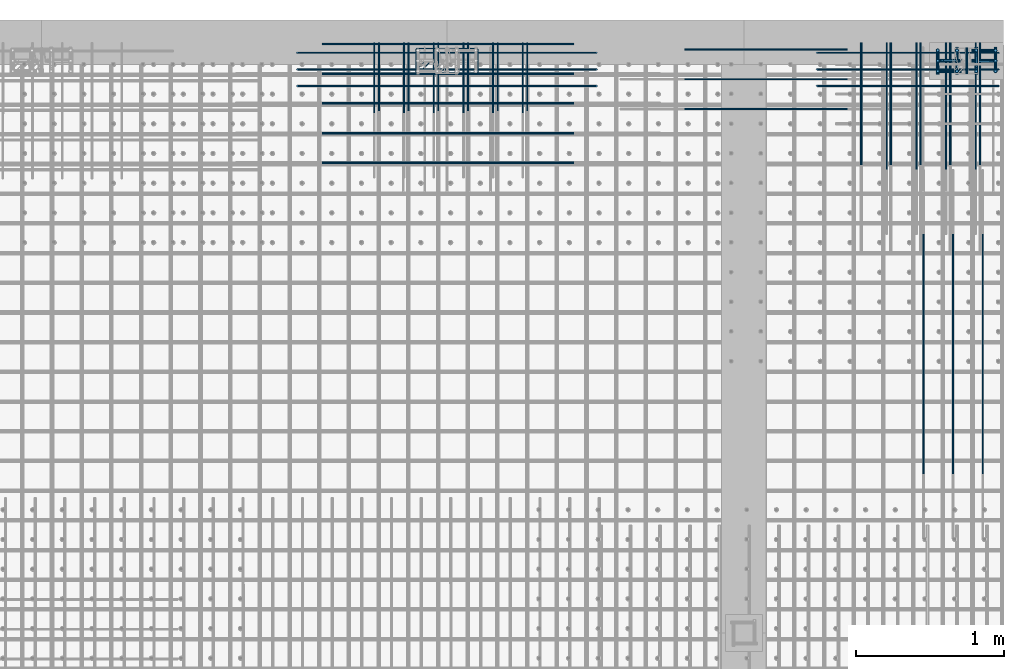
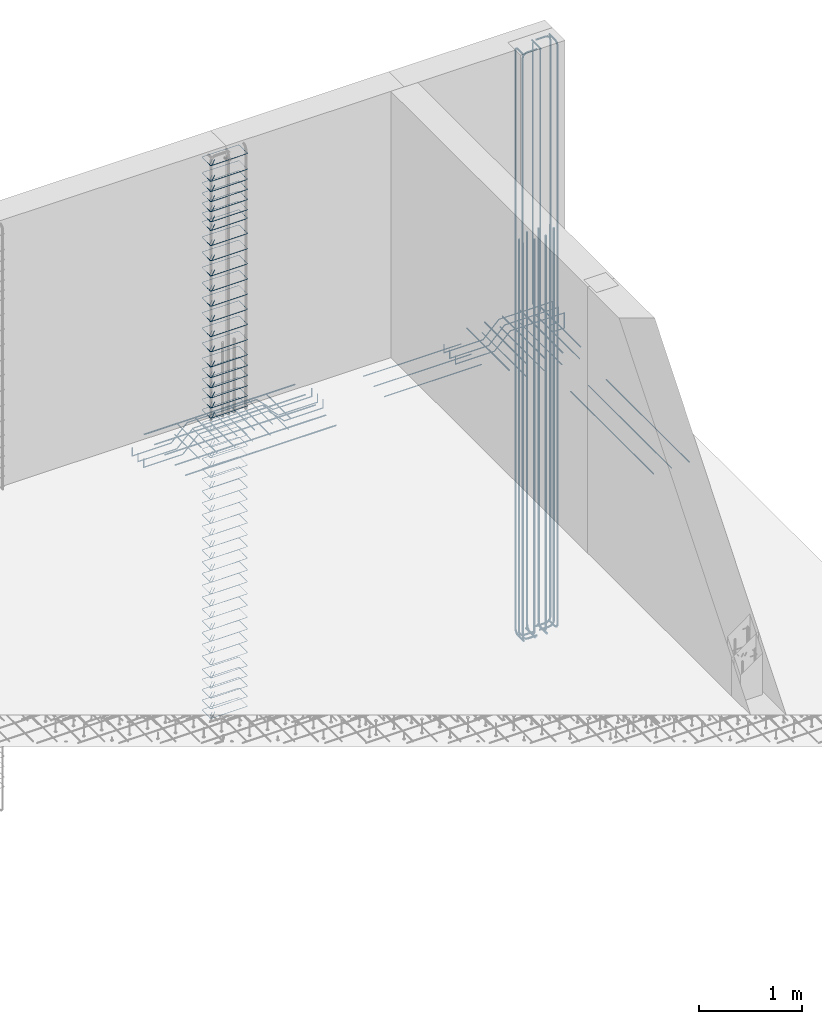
# One storey, part 14 of 17: 14 reinforcing bars.
"""IFC4 building model written with IfcOpenShell, lengths in metres."""

from ifc_helpers import new_model, entity, si_unit, frame, origin_with_axes, place, context, project, spatial, source, transform, mapped, element, save


model = new_model("IFC4")

# Units and contexts
model_context = context("Model", 3, precision=1e-05, world=origin_with_axes())
ifc_project = project(units=[si_unit("LENGTHUNIT", "METRE"), si_unit("AREAUNIT", "SQUARE_METRE"), si_unit("VOLUMEUNIT", "CUBIC_METRE"), si_unit("MASSUNIT", "GRAM", prefix="KILO"), si_unit("TIMEUNIT", "SECOND"), si_unit("PLANEANGLEUNIT", "RADIAN"), si_unit("SOLIDANGLEUNIT", "STERADIAN"), si_unit("THERMODYNAMICTEMPERATUREUNIT", "DEGREE_CELSIUS")], contexts=[model_context])

# Site, building, storey
placement_1 = place(None, origin_with_axes())
site = spatial("IfcSite", under=ifc_project, at=placement_1, Name="Italia", CompositionType="ELEMENT")
building = spatial("IfcBuilding", under=site, at=placement_1, Name="Abitazione", CompositionType="ELEMENT")
storey_placement = place(None, frame((0.0, 0.0, 3.569999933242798), z_axis=(0.0, 0.0, 1.0), x_axis=(1.0, 0.0, 0.0)))
storey = spatial("IfcBuildingStorey", under=building, at=storey_placement, Name="Storey 1", CompositionType="ELEMENT", Elevation=3.569999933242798)

# Reinforcing bars
shared_shape_1 = source(origin_with_axes(), model_context, "Body", "AdvancedSweptSolid", [
    entity("IfcSweptDiskSolid", entity("IfcIndexedPolyCurve", entity("IfcCartesianPointList3D", [[10.7412, 11.2817, 0.047], [10.6734, 11.2139, 0.0465129], [10.6664, 11.211, 0.046474], [10.661, 11.211, 0.0464468], [10.6572, 11.2118, 0.0464269], [10.6539, 11.2139, 0.0464071], [10.6518, 11.2172, 0.0463873], [10.651, 11.221, 0.0463675], [10.651, 11.369, 0.0456154], [10.6518, 11.3728, 0.0455956], [10.6539, 11.3761, 0.0455757], [10.6572, 11.3782, 0.0455559], [10.661, 11.379, 0.0455361], [11.059, 11.379, 0.0435137], [11.0628, 11.3782, 0.0434938], [11.0661, 11.3761, 0.043474], [11.0682, 11.3728, 0.0434542], [11.069, 11.369, 0.0434343], [11.069, 11.221, 0.0426823], [11.0682, 11.2172, 0.0426625], [11.0661, 11.2139, 0.0426426], [11.0628, 11.2118, 0.0426228], [11.059, 11.211, 0.042603], [10.661, 11.211, 0.0405805], [10.6572, 11.2118, 0.0405607], [10.6539, 11.2139, 0.0405409], [10.6518, 11.2172, 0.0405211], [10.651, 11.221, 0.0405012], [10.651, 11.2264, 0.040474], [10.6539, 11.2334, 0.0404351], [10.7217, 11.3012, 0.039948]]), [entity("IfcLineIndex", [1, 2]), entity("IfcLineIndex", [2, 3]), entity("IfcLineIndex", [3, 4]), entity("IfcLineIndex", [4, 5]), entity("IfcLineIndex", [5, 6]), entity("IfcLineIndex", [6, 7]), entity("IfcLineIndex", [7, 8]), entity("IfcLineIndex", [8, 9]), entity("IfcLineIndex", [9, 10]), entity("IfcLineIndex", [10, 11]), entity("IfcLineIndex", [11, 12]), entity("IfcLineIndex", [12, 13]), entity("IfcLineIndex", [13, 14]), entity("IfcLineIndex", [14, 15]), entity("IfcLineIndex", [15, 16]), entity("IfcLineIndex", [16, 17]), entity("IfcLineIndex", [17, 18]), entity("IfcLineIndex", [18, 19]), entity("IfcLineIndex", [19, 20]), entity("IfcLineIndex", [20, 21]), entity("IfcLineIndex", [21, 22]), entity("IfcLineIndex", [22, 23]), entity("IfcLineIndex", [23, 24]), entity("IfcLineIndex", [24, 25]), entity("IfcLineIndex", [25, 26]), entity("IfcLineIndex", [26, 27]), entity("IfcLineIndex", [27, 28]), entity("IfcLineIndex", [28, 29]), entity("IfcLineIndex", [29, 30]), entity("IfcLineIndex", [30, 31])], False), 0.003),
])
placement_2 = place(placement_1, origin_with_axes())
reinforcing_bar_1_placement = place(placement_2, origin_with_axes())
element("IfcReinforcingBar", 1, at=reinforcing_bar_1_placement, inside=storey, BarLength=1.38779, CrossSectionArea=2.8274e-05, NominalDiameter=0.006, context=model_context, shape_type="MappedRepresentation", body=[
    mapped(shared_shape_1, transform((0.0, 0.0, 3.22), x_axis=(1.0, 0.0, 0.0), y_axis=(0.0, 1.0, 0.0), z_axis=(0.0, 0.0, 1.0), scale=1.0)),
    mapped(shared_shape_1, transform((0.0, 0.0, 3.407), x_axis=(1.0, 0.0, 0.0), y_axis=(0.0, 1.0, 0.0), z_axis=(0.0, 0.0, 1.0), scale=1.0)),
    mapped(shared_shape_1, transform((0.0, 0.0, 4.35107), x_axis=(1.0, 0.0, 5.30582e-05), y_axis=(0.0, 1.0, -5.68494e-05), z_axis=(-5.30582e-05, 5.68495e-05, 1.0), scale=1.0)),
    mapped(shared_shape_1, transform((0.0, 0.0, 4.53107), x_axis=(1.0, 0.0, 5.30582e-05), y_axis=(0.0, 1.0, -5.68494e-05), z_axis=(-5.30582e-05, 5.68495e-05, 1.0), scale=1.0)),
    mapped(shared_shape_1, transform((0.0, 0.0, 6.56107), x_axis=(1.0, 0.0, 5.30582e-05), y_axis=(0.0, 1.0, -5.68494e-05), z_axis=(-5.30582e-05, 5.68495e-05, 1.0), scale=1.0)),
    mapped(shared_shape_1, transform((0.0, 0.0, 4.04407), x_axis=(1.0, 0.0, 5.30582e-05), y_axis=(0.0, 1.0, -5.68494e-05), z_axis=(-5.30582e-05, 5.68495e-05, 1.0), scale=1.0)),
    mapped(shared_shape_1, transform((0.0, 0.0, 4.17107), x_axis=(1.0, 0.0, 5.30582e-05), y_axis=(0.0, 1.0, -5.68494e-05), z_axis=(-5.30582e-05, 5.68495e-05, 1.0), scale=1.0)),
    mapped(shared_shape_1, transform((0.0, 0.0, 3.684), x_axis=(1.0, 0.0, 0.0), y_axis=(0.0, 1.0, 0.0), z_axis=(0.0, 0.0, 1.0), scale=1.0)),
    mapped(shared_shape_1, transform((0.0, 0.0, 3.804), x_axis=(1.0, 0.0, 0.0), y_axis=(0.0, 1.0, 0.0), z_axis=(0.0, 0.0, 1.0), scale=1.0)),
    mapped(shared_shape_1, transform((0.0, 0.0, 3.924), x_axis=(1.0, 0.0, 0.0), y_axis=(0.0, 1.0, 0.0), z_axis=(0.0, 0.0, 1.0), scale=1.0)),
    mapped(shared_shape_1, transform((0.0, 0.0, 5.07107), x_axis=(1.0, 0.0, 5.30582e-05), y_axis=(0.0, 1.0, -5.68494e-05), z_axis=(-5.30582e-05, 5.68495e-05, 1.0), scale=1.0)),
    mapped(shared_shape_1, transform((0.0, 0.0, 3.564), x_axis=(1.0, 0.0, 0.0), y_axis=(0.0, 1.0, 0.0), z_axis=(0.0, 0.0, 1.0), scale=1.0)),
    mapped(shared_shape_1, transform((0.0, 0.0, 6.25407), x_axis=(1.0, 0.0, 5.30582e-05), y_axis=(0.0, 1.0, -5.68494e-05), z_axis=(-5.30582e-05, 5.68495e-05, 1.0), scale=1.0)),
    mapped(shared_shape_1, transform((0.0, 0.0, 4.71107), x_axis=(1.0, 0.0, 5.30582e-05), y_axis=(0.0, 1.0, -5.68494e-05), z_axis=(-5.30582e-05, 5.68495e-05, 1.0), scale=1.0)),
    mapped(shared_shape_1, transform((0.0, 0.0, 4.89107), x_axis=(1.0, 0.0, 5.30582e-05), y_axis=(0.0, 1.0, -5.68494e-05), z_axis=(-5.30582e-05, 5.68495e-05, 1.0), scale=1.0)),
    mapped(shared_shape_1, transform((0.0, 0.0, 6.01407), x_axis=(1.0, 0.0, 5.30582e-05), y_axis=(0.0, 1.0, -5.68494e-05), z_axis=(-5.30582e-05, 5.68495e-05, 1.0), scale=1.0)),
    mapped(shared_shape_1, transform((0.0, 0.0, 6.13407), x_axis=(1.0, 0.0, 5.30582e-05), y_axis=(0.0, 1.0, -5.68494e-05), z_axis=(-5.30582e-05, 5.68495e-05, 1.0), scale=1.0)),
    mapped(shared_shape_1, transform((0.0, 0.0, 5.61107), x_axis=(1.0, 0.0, 5.30582e-05), y_axis=(0.0, 1.0, -5.68494e-05), z_axis=(-5.30582e-05, 5.68495e-05, 1.0), scale=1.0)),
    mapped(shared_shape_1, transform((0.0, 0.0, 5.79107), x_axis=(1.0, 0.0, 5.30582e-05), y_axis=(0.0, 1.0, -5.68494e-05), z_axis=(-5.30582e-05, 5.68495e-05, 1.0), scale=1.0)),
    mapped(shared_shape_1, transform((0.0, 0.0, 5.89407), x_axis=(1.0, 0.0, 5.30582e-05), y_axis=(0.0, 1.0, -5.68494e-05), z_axis=(-5.30582e-05, 5.68495e-05, 1.0), scale=1.0)),
    mapped(shared_shape_1, transform((0.0, 0.0, 5.25107), x_axis=(1.0, 0.0, 5.30582e-05), y_axis=(0.0, 1.0, -5.68494e-05), z_axis=(-5.30582e-05, 5.68495e-05, 1.0), scale=1.0)),
    mapped(shared_shape_1, transform((0.0, 0.0, 5.43107), x_axis=(1.0, 0.0, 5.30582e-05), y_axis=(0.0, 1.0, -5.68494e-05), z_axis=(-5.30582e-05, 5.68495e-05, 1.0), scale=1.0)),
    mapped(shared_shape_1, transform((0.0, 0.0, 6.37407), x_axis=(1.0, 0.0, 5.30582e-05), y_axis=(0.0, 1.0, -5.68494e-05), z_axis=(-5.30582e-05, 5.68495e-05, 1.0), scale=1.0)),
    mapped(shared_shape_1, transform((0.0, 0.0, 3.094), x_axis=(1.0, 0.0, 0.0), y_axis=(0.0, 1.0, 0.0), z_axis=(0.0, 0.0, 1.0), scale=1.0)),
    mapped(shared_shape_1, transform((0.0, 0.0, 0.113998), x_axis=(1.0, 0.0, 0.0), y_axis=(0.0, 1.0, 0.0), z_axis=(0.0, 0.0, 1.0), scale=1.0)),
    mapped(shared_shape_1, transform((0.0, 0.0, 1.05601), x_axis=(1.0, 0.0, 2.1794e-05), y_axis=(0.0, 1.0, -2.20677e-05), z_axis=(-2.1794e-05, 2.20677e-05, 1.0), scale=1.0)),
    mapped(shared_shape_1, transform((0.0, 0.0, 1.19601), x_axis=(1.0, 0.0, 2.1794e-05), y_axis=(0.0, 1.0, -2.20677e-05), z_axis=(-2.1794e-05, 2.20677e-05, 1.0), scale=1.0)),
    mapped(shared_shape_1, transform((0.0, 0.0, 0.635989), x_axis=(1.0, 0.0, 0.0), y_axis=(0.0, 1.0, 0.0), z_axis=(0.0, 0.0, 1.0), scale=1.0)),
    mapped(shared_shape_1, transform((0.0, 0.0, 0.775989), x_axis=(1.0, 0.0, 0.0), y_axis=(0.0, 1.0, 0.0), z_axis=(0.0, 0.0, 1.0), scale=1.0)),
    mapped(shared_shape_1, transform((0.0, 0.0, 0.915989), x_axis=(1.0, 0.0, 0.0), y_axis=(0.0, 1.0, 0.0), z_axis=(0.0, 0.0, 1.0), scale=1.0)),
    mapped(shared_shape_1, transform((0.0, 0.0, 0.359998), x_axis=(1.0, 0.0, 0.0), y_axis=(0.0, 1.0, 0.0), z_axis=(0.0, 0.0, 1.0), scale=1.0)),
    mapped(shared_shape_1, transform((0.0, 0.0, 0.480007), x_axis=(1.0, 0.0, 0.0), y_axis=(0.0, 1.0, 0.0), z_axis=(0.0, 0.0, 1.0), scale=1.0)),
    mapped(shared_shape_1, transform((0.0, 0.0, 1.47601), x_axis=(1.0, 0.0, 2.1794e-05), y_axis=(0.0, 1.0, -2.20677e-05), z_axis=(-2.1794e-05, 2.20677e-05, 1.0), scale=1.0)),
    mapped(shared_shape_1, transform((0.0, 0.0, 1.61601), x_axis=(1.0, 0.0, 2.1794e-05), y_axis=(0.0, 1.0, -2.20677e-05), z_axis=(-2.1794e-05, 2.20677e-05, 1.0), scale=1.0)),
    mapped(shared_shape_1, transform((0.0, 0.0, 0.239998), x_axis=(1.0, 0.0, 0.0), y_axis=(0.0, 1.0, 0.0), z_axis=(0.0, 0.0, 1.0), scale=1.0)),
    mapped(shared_shape_1, transform((0.0, 0.0, 2.74), x_axis=(1.0, 0.0, 0.0), y_axis=(0.0, 1.0, 0.0), z_axis=(0.0, 0.0, 1.0), scale=1.0)),
    mapped(shared_shape_1, transform((0.0, 0.0, 1.33601), x_axis=(1.0, 0.0, 2.1794e-05), y_axis=(0.0, 1.0, -2.20677e-05), z_axis=(-2.1794e-05, 2.20677e-05, 1.0), scale=1.0)),
    mapped(shared_shape_1, transform((0.0, 0.0, 2.316), x_axis=(1.0, 0.0, 0.0), y_axis=(0.0, 1.0, 0.0), z_axis=(0.0, 0.0, 1.0), scale=1.0)),
    mapped(shared_shape_1, transform((0.0, 0.0, 2.456), x_axis=(1.0, 0.0, 0.0), y_axis=(0.0, 1.0, 0.0), z_axis=(0.0, 0.0, 1.0), scale=1.0)),
    mapped(shared_shape_1, transform((0.0, 0.0, 2.596), x_axis=(1.0, 0.0, 0.0), y_axis=(0.0, 1.0, 0.0), z_axis=(0.0, 0.0, 1.0), scale=1.0)),
    mapped(shared_shape_1, transform((0.0, 0.0, 2.036), x_axis=(1.0, 0.0, 0.0), y_axis=(0.0, 1.0, 0.0), z_axis=(0.0, 0.0, 1.0), scale=1.0)),
    mapped(shared_shape_1, transform((0.0, 0.0, 2.176), x_axis=(1.0, 0.0, 0.0), y_axis=(0.0, 1.0, 0.0), z_axis=(0.0, 0.0, 1.0), scale=1.0)),
    mapped(shared_shape_1, transform((0.0, 0.0, 0.0), x_axis=(1.0, 0.0, 0.0), y_axis=(0.0, 1.0, 0.0), z_axis=(0.0, 0.0, 1.0), scale=1.0)),
    mapped(shared_shape_1, transform((0.0, 0.0, 1.75601), x_axis=(1.0, 0.0, 2.1794e-05), y_axis=(0.0, 1.0, -2.20677e-05), z_axis=(-2.1794e-05, 2.20677e-05, 1.0), scale=1.0)),
    mapped(shared_shape_1, transform((0.0, 0.0, 1.89601), x_axis=(1.0, 0.0, 2.1794e-05), y_axis=(0.0, 1.0, -2.20677e-05), z_axis=(-2.1794e-05, 2.20677e-05, 1.0), scale=1.0)),
    mapped(shared_shape_1, transform((0.0, 0.0, 2.86), x_axis=(1.0, 0.0, 0.0), y_axis=(0.0, 1.0, 0.0), z_axis=(0.0, 0.0, 1.0), scale=1.0)),
    mapped(shared_shape_1, transform((0.0, 0.0, 2.98), x_axis=(1.0, 0.0, 0.0), y_axis=(0.0, 1.0, 0.0), z_axis=(0.0, 0.0, 1.0), scale=1.0)),
])
shared_shape_2 = source(origin_with_axes(), model_context, "Body", "AdvancedSweptSolid", [
    entity("IfcSweptDiskSolid", entity("IfcIndexedPolyCurve", entity("IfcCartesianPointList3D", [[14.327, 11.225, -0.265], [14.22, 11.225, -0.265], [14.199, 11.225, -0.260813], [14.1811, 11.225, -0.248891], [14.1692, 11.225, -0.231048], [14.165, 11.225, -0.21], [14.165, 11.225, 0.8975]]), [entity("IfcLineIndex", [1, 2]), entity("IfcLineIndex", [2, 3]), entity("IfcLineIndex", [3, 4]), entity("IfcLineIndex", [4, 5]), entity("IfcLineIndex", [5, 6]), entity("IfcLineIndex", [6, 7])], False), 0.011),
])
reinforcing_bar_2_placement = place(placement_2, origin_with_axes())
element("IfcReinforcingBar", 2, at=reinforcing_bar_2_placement, inside=storey, BarLength=1.30034, CrossSectionArea=0.00038013, NominalDiameter=0.022, context=model_context, shape_type="MappedRepresentation", body=[
    mapped(shared_shape_2, transform((3.2, 25.53, 0.0), x_axis=(0.0, -1.0, 0.0), y_axis=(1.0, 0.0, 0.0), z_axis=(0.0, 0.0, 1.0), scale=1.0)),
    mapped(shared_shape_2, transform((3.07, 25.53, 0.0), x_axis=(0.0, -1.0, 0.0), y_axis=(1.0, 0.0, 0.0), z_axis=(0.0, 0.0, 1.0), scale=1.0)),
    mapped(shared_shape_2, transform((25.65, -2.94, 0.0), x_axis=(0.0, 1.0, 0.0), y_axis=(-1.0, 0.0, 0.0), z_axis=(0.0, 0.0, 1.0), scale=1.0)),
    mapped(shared_shape_2, transform((28.72, 22.52, 0.0), x_axis=(-1.0, 0.0, 0.0), y_axis=(0.0, -1.0, 0.0), z_axis=(0.0, 0.0, 1.0), scale=1.0)),
    mapped(shared_shape_2, transform((0.0, 0.0, 0.0), x_axis=(1.0, 0.0, 0.0), y_axis=(0.0, 1.0, 0.0), z_axis=(0.0, 0.0, 1.0), scale=1.0)),
    mapped(shared_shape_2, transform((25.52, -2.94, 0.0), x_axis=(0.0, 1.0, 0.0), y_axis=(-1.0, 0.0, 0.0), z_axis=(0.0, 0.0, 1.0), scale=1.0)),
    mapped(shared_shape_2, transform((28.72, 22.59, 0.0), x_axis=(-1.0, 0.0, 0.0), y_axis=(0.0, -1.0, 0.0), z_axis=(0.0, 0.0, 1.0), scale=1.0)),
    mapped(shared_shape_2, transform((2.94, 25.53, 0.0), x_axis=(0.0, -1.0, 0.0), y_axis=(1.0, 0.0, 0.0), z_axis=(0.0, 0.0, 1.0), scale=1.0)),
    mapped(shared_shape_2, transform((0.0, 0.0699997, 0.0), x_axis=(1.0, 0.0, 0.0), y_axis=(0.0, 1.0, 0.0), z_axis=(0.0, 0.0, 1.0), scale=1.0)),
    mapped(shared_shape_2, transform((25.78, -2.94, 0.0), x_axis=(0.0, 1.0, 0.0), y_axis=(-1.0, 0.0, 0.0), z_axis=(0.0, 0.0, 1.0), scale=1.0)),
])
shared_shape_3 = source(origin_with_axes(), model_context, "Body", "AdvancedSweptSolid", [
    entity("IfcSweptDiskSolid", entity("IfcIndexedPolyCurve", entity("IfcCartesianPointList3D", [[14.165, 11.225, 0.0], [14.165, 11.225, 4.45]]), [entity("IfcLineIndex", [1, 2])], False), 0.011),
])
reinforcing_bar_3_placement = place(placement_2, origin_with_axes())
element("IfcReinforcingBar", 3, at=reinforcing_bar_3_placement, inside=storey, BarLength=4.45, CrossSectionArea=0.00038013, NominalDiameter=0.022, context=model_context, shape_type="MappedRepresentation", body=[
    mapped(shared_shape_3, transform((0.259998, 0.139999, 0.0), x_axis=(1.0, 0.0, 0.0), y_axis=(0.0, 1.0, 0.0), z_axis=(0.0, 0.0, 1.0), scale=1.0)),
    mapped(shared_shape_3, transform((0.129999, 0.139999, 0.0), x_axis=(1.0, 0.0, 0.0), y_axis=(0.0, 1.0, 0.0), z_axis=(0.0, 0.0, 1.0), scale=1.0)),
    mapped(shared_shape_3, transform((0.259998, 0.0, 0.0), x_axis=(1.0, 0.0, 0.0), y_axis=(0.0, 1.0, 0.0), z_axis=(0.0, 0.0, 1.0), scale=1.0)),
    mapped(shared_shape_3, transform((0.389998, 0.0699949, 0.0), x_axis=(1.0, 0.0, 0.0), y_axis=(0.0, 1.0, 0.0), z_axis=(0.0, 0.0, 1.0), scale=1.0)),
    mapped(shared_shape_3, transform((0.0, 0.0, 0.0), x_axis=(1.0, 0.0, 0.0), y_axis=(0.0, 1.0, 0.0), z_axis=(0.0, 0.0, 1.0), scale=1.0)),
    mapped(shared_shape_3, transform((0.129999, 0.0, 0.0), x_axis=(1.0, 0.0, 0.0), y_axis=(0.0, 1.0, 0.0), z_axis=(0.0, 0.0, 1.0), scale=1.0)),
    mapped(shared_shape_3, transform((0.389998, 0.139999, 0.0), x_axis=(1.0, 0.0, 0.0), y_axis=(0.0, 1.0, 0.0), z_axis=(0.0, 0.0, 1.0), scale=1.0)),
    mapped(shared_shape_3, transform((0.0, 0.139999, 0.0), x_axis=(1.0, 0.0, 0.0), y_axis=(0.0, 1.0, 0.0), z_axis=(0.0, 0.0, 1.0), scale=1.0)),
    mapped(shared_shape_3, transform((0.0, 0.0699997, 0.0), x_axis=(1.0, 0.0, 0.0), y_axis=(0.0, 1.0, 0.0), z_axis=(0.0, 0.0, 1.0), scale=1.0)),
    mapped(shared_shape_3, transform((0.389998, 0.0, 0.0), x_axis=(1.0, 0.0, 0.0), y_axis=(0.0, 1.0, 0.0), z_axis=(0.0, 0.0, 1.0), scale=1.0)),
])
shared_shape_4 = source(origin_with_axes(), model_context, "Body", "AdvancedSweptSolid", [
    entity("IfcSweptDiskSolid", entity("IfcIndexedPolyCurve", entity("IfcCartesianPointList3D", [[14.164, 11.224, 3.57], [14.164, 11.224, 6.645], [14.1678, 11.224, 6.66413], [14.1786, 11.224, 6.68036], [14.1949, 11.224, 6.69119], [14.214, 11.224, 6.695], [14.326, 11.224, 6.695]]), [entity("IfcLineIndex", [1, 2]), entity("IfcLineIndex", [2, 3]), entity("IfcLineIndex", [3, 4]), entity("IfcLineIndex", [4, 5]), entity("IfcLineIndex", [5, 6]), entity("IfcLineIndex", [6, 7])], False), 0.01),
])
reinforcing_bar_4_placement = place(placement_2, origin_with_axes())
element("IfcReinforcingBar", 4, at=reinforcing_bar_4_placement, inside=storey, BarLength=3.26504, CrossSectionArea=0.00031416, NominalDiameter=0.02, context=model_context, shape_type="MappedRepresentation", body=[
    mapped(shared_shape_4, transform((2.94, 25.53, 0.0), x_axis=(0.0, -1.0, 0.0), y_axis=(1.0, 0.0, 0.0), z_axis=(0.0, 0.0, 1.0), scale=1.0)),
    mapped(shared_shape_4, transform((0.0, 0.0, 0.0), x_axis=(1.0, 0.0, 0.0), y_axis=(0.0, 1.0, 0.0), z_axis=(0.0, 0.0, 1.0), scale=1.0)),
    mapped(shared_shape_4, transform((25.78, -2.94, 0.0), x_axis=(0.0, 1.0, 0.0), y_axis=(-1.0, 0.0, 0.0), z_axis=(0.0, 0.0, 1.0), scale=1.0)),
    mapped(shared_shape_4, transform((28.72, 22.59, 0.0), x_axis=(-1.0, 0.0, 0.0), y_axis=(0.0, -1.0, 0.0), z_axis=(0.0, 0.0, 1.0), scale=1.0)),
])
shared_shape_5 = source(origin_with_axes(), model_context, "Body", "AdvancedSweptSolid", [
    entity("IfcSweptDiskSolid", entity("IfcIndexedPolyCurve", entity("IfcCartesianPointList3D", [[14.36, 11.368, 3.57], [14.36, 11.368, 6.655], [14.36, 11.365, 6.67031], [14.36, 11.3563, 6.68328], [14.36, 11.3433, 6.69196], [14.36, 11.328, 6.695], [14.36, 11.206, 6.695]]), [entity("IfcLineIndex", [1, 2]), entity("IfcLineIndex", [2, 3]), entity("IfcLineIndex", [3, 4]), entity("IfcLineIndex", [4, 5]), entity("IfcLineIndex", [5, 6]), entity("IfcLineIndex", [6, 7])], False), 0.008),
])
reinforcing_bar_5_placement = place(placement_2, origin_with_axes())
element("IfcReinforcingBar", 5, at=reinforcing_bar_5_placement, inside=storey, BarLength=3.26943, CrossSectionArea=0.00020106, NominalDiameter=0.016, context=model_context, shape_type="MappedRepresentation", body=[
    mapped(shared_shape_5, transform((28.72, 22.59, 0.0), x_axis=(-1.0, 0.0, 0.0), y_axis=(0.0, -1.0, 0.0), z_axis=(0.0, 0.0, 1.0), scale=1.0)),
    mapped(shared_shape_5, transform((0.0, 0.0, 0.0), x_axis=(1.0, 0.0, 0.0), y_axis=(0.0, 1.0, 0.0), z_axis=(0.0, 0.0, 1.0), scale=1.0)),
])
shared_shape_6 = source(origin_with_axes(), model_context, "Body", "AdvancedSweptSolid", [
    entity("IfcSweptDiskSolid", entity("IfcIndexedPolyCurve", entity("IfcCartesianPointList3D", [[13.6499, 10.5925, 3.5], [13.6499, 11.42, 3.5]]), [entity("IfcLineIndex", [1, 2])], False), 0.008),
])
reinforcing_bar_6_placement = place(placement_2, origin_with_axes())
element("IfcReinforcingBar", 6, at=reinforcing_bar_6_placement, inside=storey, BarLength=0.827482, CrossSectionArea=0.00020106, NominalDiameter=0.016, context=model_context, shape_type="MappedRepresentation", body=[
    mapped(shared_shape_6, transform((0.0, 0.0, 0.0), x_axis=(1.0, 0.0, 0.0), y_axis=(0.0, 1.0, 0.0), z_axis=(0.0, 0.0, 1.0), scale=1.0)),
    mapped(shared_shape_6, transform((0.200001, 0.0, 0.0), x_axis=(1.0, 0.0, 0.0), y_axis=(0.0, 1.0, 0.0), z_axis=(0.0, 0.0, 1.0), scale=1.0)),
    mapped(shared_shape_6, transform((0.400001, 0.0, 0.0), x_axis=(1.0, 0.0, 0.0), y_axis=(0.0, 1.0, 0.0), z_axis=(0.0, 0.0, 1.0), scale=1.0)),
    mapped(shared_shape_6, transform((0.6, 0.0, 0.0), x_axis=(1.0, 0.0, 0.0), y_axis=(0.0, 1.0, 0.0), z_axis=(0.0, 0.0, 1.0), scale=1.0)),
    mapped(shared_shape_6, transform((0.8, 0.0, 0.0), x_axis=(1.0, 0.0, 0.0), y_axis=(0.0, 1.0, 0.0), z_axis=(0.0, 0.0, 1.0), scale=1.0)),
])
shared_shape_7 = source(origin_with_axes(), model_context, "Body", "AdvancedSweptSolid", [
    entity("IfcSweptDiskSolid", entity("IfcIndexedPolyCurve", entity("IfcCartesianPointList3D", [[10.0196, 10.6081, 3.516], [11.7155, 10.6081, 3.516]]), [entity("IfcLineIndex", [1, 2])], False), 0.008),
])
reinforcing_bar_7_placement = place(placement_2, origin_with_axes())
element("IfcReinforcingBar", 7, at=reinforcing_bar_7_placement, inside=storey, BarLength=1.69591, CrossSectionArea=0.00020106, NominalDiameter=0.016, context=model_context, shape_type="MappedRepresentation", body=[
    mapped(shared_shape_7, transform((0.0, 0.0, 0.0), x_axis=(1.0, 0.0, 0.0), y_axis=(0.0, 1.0, 0.0), z_axis=(0.0, 0.0, 1.0), scale=1.0)),
    mapped(shared_shape_7, transform((0.0, 0.2, 0.0), x_axis=(1.0, 0.0, 0.0), y_axis=(0.0, 1.0, 0.0), z_axis=(0.0, 0.0, 1.0), scale=1.0)),
    mapped(shared_shape_7, transform((0.0, 0.4, 0.0), x_axis=(1.0, 0.0, 0.0), y_axis=(0.0, 1.0, 0.0), z_axis=(0.0, 0.0, 1.0), scale=1.0)),
    mapped(shared_shape_7, transform((0.0, 0.599999, 0.0), x_axis=(1.0, 0.0, 0.0), y_axis=(0.0, 1.0, 0.0), z_axis=(0.0, 0.0, 1.0), scale=1.0)),
    mapped(shared_shape_7, transform((0.0, 0.799999, 0.0), x_axis=(1.0, 0.0, 0.0), y_axis=(0.0, 1.0, 0.0), z_axis=(0.0, 0.0, 1.0), scale=1.0)),
])
shared_shape_8 = source(origin_with_axes(), model_context, "Body", "AdvancedSweptSolid", [
    entity("IfcSweptDiskSolid", entity("IfcIndexedPolyCurve", entity("IfcCartesianPointList3D", [[10.4015, 10.9575, 3.5], [10.4015, 11.42, 3.5]]), [entity("IfcLineIndex", [1, 2])], False), 0.006),
])
reinforcing_bar_8_placement = place(placement_2, origin_with_axes())
element("IfcReinforcingBar", 8, at=reinforcing_bar_8_placement, inside=storey, BarLength=0.462548, CrossSectionArea=0.0001131, NominalDiameter=0.012, context=model_context, shape_type="MappedRepresentation", body=[
    mapped(shared_shape_8, transform((0.4, 0.0, 0.0), x_axis=(1.0, 0.0, 0.0), y_axis=(0.0, 1.0, 0.0), z_axis=(0.0, 0.0, 1.0), scale=1.0)),
    mapped(shared_shape_8, transform((0.2, 0.0, 0.0), x_axis=(1.0, 0.0, 0.0), y_axis=(0.0, 1.0, 0.0), z_axis=(0.0, 0.0, 1.0), scale=1.0)),
    mapped(shared_shape_8, transform((0.0, 0.0, 0.0), x_axis=(1.0, 0.0, 0.0), y_axis=(0.0, 1.0, 0.0), z_axis=(0.0, 0.0, 1.0), scale=1.0)),
    mapped(shared_shape_8, transform((0.999999, 0.0, 0.0), x_axis=(1.0, 0.0, 0.0), y_axis=(0.0, 1.0, 0.0), z_axis=(0.0, 0.0, 1.0), scale=1.0)),
    mapped(shared_shape_8, transform((0.799999, 0.0, 0.0), x_axis=(1.0, 0.0, 0.0), y_axis=(0.0, 1.0, 0.0), z_axis=(0.0, 0.0, 1.0), scale=1.0)),
    mapped(shared_shape_8, transform((0.599999, 0.0, 0.0), x_axis=(1.0, 0.0, 0.0), y_axis=(0.0, 1.0, 0.0), z_axis=(0.0, 0.0, 1.0), scale=1.0)),
])
shared_shape_9 = source(origin_with_axes(), model_context, "Body", "AdvancedSweptSolid", [
    entity("IfcSweptDiskSolid", entity("IfcIndexedPolyCurve", entity("IfcCartesianPointList3D", [[12.4613, 10.9706, 3.374], [13.5572, 10.9706, 3.374]]), [entity("IfcLineIndex", [1, 2])], False), 0.006),
])
reinforcing_bar_9_placement = place(placement_2, origin_with_axes())
element("IfcReinforcingBar", 9, at=reinforcing_bar_9_placement, inside=storey, BarLength=1.09591, CrossSectionArea=0.0001131, NominalDiameter=0.012, context=model_context, shape_type="MappedRepresentation", body=[
    mapped(shared_shape_9, transform((0.0, 0.4, 0.0), x_axis=(1.0, 0.0, 0.0), y_axis=(0.0, 1.0, 0.0), z_axis=(0.0, 0.0, 1.0), scale=1.0)),
    mapped(shared_shape_9, transform((0.0, 0.2, 0.0), x_axis=(1.0, 0.0, 0.0), y_axis=(0.0, 1.0, 0.0), z_axis=(0.0, 0.0, 1.0), scale=1.0)),
    mapped(shared_shape_9, transform((0.0, 0.0, 0.0), x_axis=(1.0, 0.0, 0.0), y_axis=(0.0, 1.0, 0.0), z_axis=(0.0, 0.0, 1.0), scale=1.0)),
])
shared_shape_10 = source(origin_with_axes(), model_context, "Body", "AdvancedSweptSolid", [
    entity("IfcSweptDiskSolid", entity("IfcIndexedPolyCurve", entity("IfcCartesianPointList3D", [[14.069, 8.51154, 3.386], [14.069, 10.1275, 3.386]]), [entity("IfcLineIndex", [1, 2])], False), 0.006),
])
reinforcing_bar_10_placement = place(placement_2, origin_with_axes())
element("IfcReinforcingBar", 10, at=reinforcing_bar_10_placement, inside=storey, BarLength=1.61591, CrossSectionArea=0.0001131, NominalDiameter=0.012, context=model_context, shape_type="MappedRepresentation", body=[
    mapped(shared_shape_10, transform((0.4, 0.0, 0.0), x_axis=(1.0, 0.0, 0.0), y_axis=(0.0, 1.0, 0.0), z_axis=(0.0, 0.0, 1.0), scale=1.0)),
    mapped(shared_shape_10, transform((0.2, 0.0, 0.0), x_axis=(1.0, 0.0, 0.0), y_axis=(0.0, 1.0, 0.0), z_axis=(0.0, 0.0, 1.0), scale=1.0)),
    mapped(shared_shape_10, transform((0.0, 0.0, 0.0), x_axis=(1.0, 0.0, 0.0), y_axis=(0.0, 1.0, 0.0), z_axis=(0.0, 0.0, 1.0), scale=1.0)),
])
shared_shape_11 = source(origin_with_axes(), model_context, "Body", "AdvancedSweptSolid", [
    entity("IfcSweptDiskSolid", entity("IfcIndexedPolyCurve", entity("IfcCartesianPointList3D", [[13.8219, 10.5617, 3.386], [13.8219, 11.42, 3.386]]), [entity("IfcLineIndex", [1, 2])], False), 0.006),
])
reinforcing_bar_11_placement = place(placement_2, origin_with_axes())
element("IfcReinforcingBar", 11, at=reinforcing_bar_11_placement, inside=storey, BarLength=0.858311, CrossSectionArea=0.0001131, NominalDiameter=0.012, context=model_context, shape_type="MappedRepresentation", body=[
    mapped(shared_shape_11, transform((0.200001, 0.0, 0.0), x_axis=(1.0, 0.0, 0.0), y_axis=(0.0, 1.0, 0.0), z_axis=(0.0, 0.0, 1.0), scale=1.0)),
    mapped(shared_shape_11, transform((0.0, 0.0, 0.0), x_axis=(1.0, 0.0, 0.0), y_axis=(0.0, 1.0, 0.0), z_axis=(0.0, 0.0, 1.0), scale=1.0)),
    mapped(shared_shape_11, transform((0.6, 0.0, 0.0), x_axis=(1.0, 0.0, 0.0), y_axis=(0.0, 1.0, 0.0), z_axis=(0.0, 0.0, 1.0), scale=1.0)),
    mapped(shared_shape_11, transform((0.400001, 0.0, 0.0), x_axis=(1.0, 0.0, 0.0), y_axis=(0.0, 1.0, 0.0), z_axis=(0.0, 0.0, 1.0), scale=1.0)),
])
shared_shape_12 = source(origin_with_axes(), model_context, "Body", "AdvancedSweptSolid", [
    entity("IfcSweptDiskSolid", entity("IfcIndexedPolyCurve", entity("IfcCartesianPointList3D", [[10.3708, 10.9437, 3.386], [10.3708, 11.42, 3.386]]), [entity("IfcLineIndex", [1, 2])], False), 0.006),
])
reinforcing_bar_12_placement = place(placement_2, origin_with_axes())
element("IfcReinforcingBar", 12, at=reinforcing_bar_12_placement, inside=storey, BarLength=0.476277, CrossSectionArea=0.0001131, NominalDiameter=0.012, context=model_context, shape_type="MappedRepresentation", body=[
    mapped(shared_shape_12, transform((0.400001, 0.0, 0.0), x_axis=(1.0, 0.0, 0.0), y_axis=(0.0, 1.0, 0.0), z_axis=(0.0, 0.0, 1.0), scale=1.0)),
    mapped(shared_shape_12, transform((0.200001, 0.0, 0.0), x_axis=(1.0, 0.0, 0.0), y_axis=(0.0, 1.0, 0.0), z_axis=(0.0, 0.0, 1.0), scale=1.0)),
    mapped(shared_shape_12, transform((0.0, 0.0, 0.0), x_axis=(1.0, 0.0, 0.0), y_axis=(0.0, 1.0, 0.0), z_axis=(0.0, 0.0, 1.0), scale=1.0)),
    mapped(shared_shape_12, transform((1.0, 0.0, 0.0), x_axis=(1.0, 0.0, 0.0), y_axis=(0.0, 1.0, 0.0), z_axis=(0.0, 0.0, 1.0), scale=1.0)),
    mapped(shared_shape_12, transform((0.8, 0.0, 0.0), x_axis=(1.0, 0.0, 0.0), y_axis=(0.0, 1.0, 0.0), z_axis=(0.0, 0.0, 1.0), scale=1.0)),
    mapped(shared_shape_12, transform((0.6, 0.0, 0.0), x_axis=(1.0, 0.0, 0.0), y_axis=(0.0, 1.0, 0.0), z_axis=(0.0, 0.0, 1.0), scale=1.0)),
])
shared_shape_13 = source(origin_with_axes(), model_context, "Body", "AdvancedSweptSolid", [
    entity("IfcSweptDiskSolid", entity("IfcIndexedPolyCurve", entity("IfcCartesianPointList3D", [[11.867, 11.126, 3.455], [11.867, 11.126, 3.355], [11.867, 11.126, 3.355], [11.43, 11.126, 3.355], [11.25, 11.126, 3.535], [10.47, 11.126, 3.535], [10.29, 11.126, 3.355], [9.85295, 11.126, 3.355], [9.85295, 11.126, 3.355], [9.85295, 11.126, 3.455]]), [entity("IfcLineIndex", [1, 2]), entity("IfcLineIndex", [2, 3]), entity("IfcLineIndex", [3, 4]), entity("IfcLineIndex", [4, 5]), entity("IfcLineIndex", [5, 6]), entity("IfcLineIndex", [6, 7]), entity("IfcLineIndex", [7, 8]), entity("IfcLineIndex", [8, 9]), entity("IfcLineIndex", [9, 10])], False), 0.006),
])
reinforcing_bar_13_placement = place(placement_2, origin_with_axes())
element("IfcReinforcingBar", 13, at=reinforcing_bar_13_placement, inside=storey, BarLength=2.36321, CrossSectionArea=0.0001131, NominalDiameter=0.012, context=model_context, shape_type="MappedRepresentation", body=[
    mapped(shared_shape_13, transform((0.0, 0.111501, 0.0), x_axis=(1.0, 0.0, 0.0), y_axis=(0.0, 1.0, 0.0), z_axis=(0.0, 0.0, 1.0), scale=1.0)),
    mapped(shared_shape_13, transform((0.0, 0.223001, 0.0), x_axis=(1.0, 0.0, 0.0), y_axis=(0.0, 1.0, 0.0), z_axis=(0.0, 0.0, 1.0), scale=1.0)),
    mapped(shared_shape_13, transform((0.0, 0.0, 0.0), x_axis=(1.0, 0.0, 0.0), y_axis=(0.0, 1.0, 0.0), z_axis=(0.0, 0.0, 1.0), scale=1.0)),
])
shared_shape_14 = source(origin_with_axes(), model_context, "Body", "AdvancedSweptSolid", [
    entity("IfcSweptDiskSolid", entity("IfcIndexedPolyCurve", entity("IfcCartesianPointList3D", [[14.475, 11.126, 3.355], [14.575, 11.126, 3.355], [14.575, 11.126, 3.355], [14.575, 11.126, 3.535], [13.97, 11.126, 3.535], [13.79, 11.126, 3.355], [13.353, 11.126, 3.355], [13.353, 11.126, 3.355], [13.353, 11.126, 3.455]]), [entity("IfcLineIndex", [1, 2]), entity("IfcLineIndex", [2, 3]), entity("IfcLineIndex", [3, 4]), entity("IfcLineIndex", [4, 5]), entity("IfcLineIndex", [5, 6]), entity("IfcLineIndex", [6, 7]), entity("IfcLineIndex", [7, 8]), entity("IfcLineIndex", [8, 9])], False), 0.006),
])
reinforcing_bar_14_placement = place(placement_2, origin_with_axes())
element("IfcReinforcingBar", 14, at=reinforcing_bar_14_placement, inside=storey, BarLength=1.67661, CrossSectionArea=0.0001131, NominalDiameter=0.012, context=model_context, shape_type="MappedRepresentation", body=[
    mapped(shared_shape_14, transform((0.0, 0.1115, 0.0), x_axis=(1.0, 0.0, 0.0), y_axis=(0.0, 1.0, 0.0), z_axis=(0.0, 0.0, 1.0), scale=1.0)),
    mapped(shared_shape_14, transform((0.0, 0.223, 0.0), x_axis=(1.0, 0.0, 0.0), y_axis=(0.0, 1.0, 0.0), z_axis=(0.0, 0.0, 1.0), scale=1.0)),
    mapped(shared_shape_14, transform((0.0, 0.0, 0.0), x_axis=(1.0, 0.0, 0.0), y_axis=(0.0, 1.0, 0.0), z_axis=(0.0, 0.0, 1.0), scale=1.0)),
])

save(model, "model.ifc")
